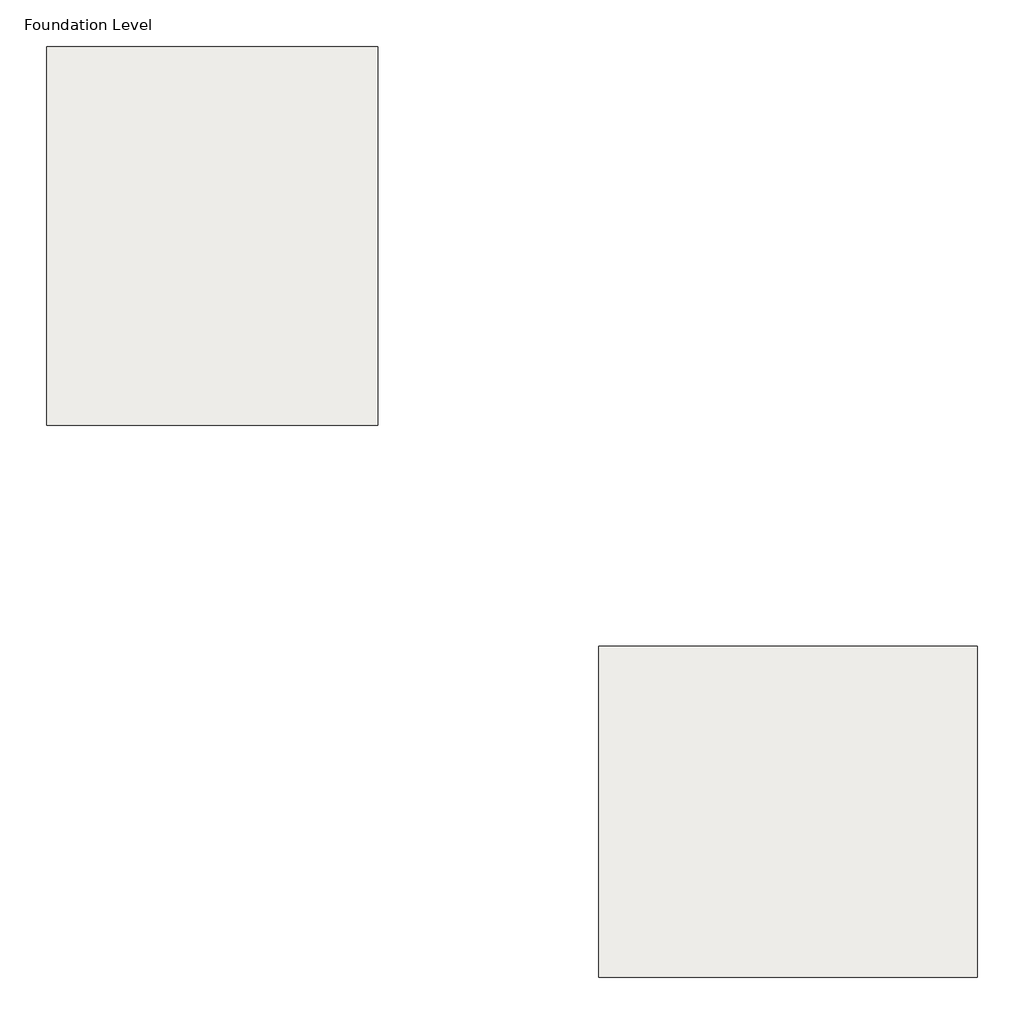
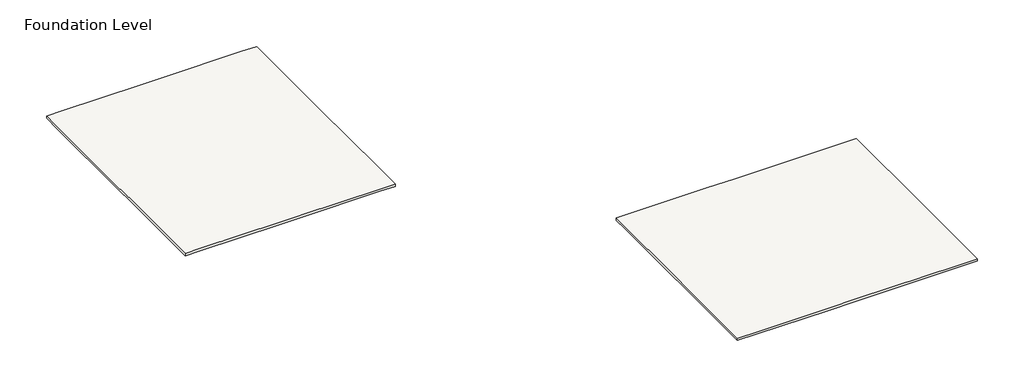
# One storey: 2 slabs.
"""IFC4 building model written with IfcOpenShell, lengths in millimetres."""

from ifc_helpers import new_model, si_unit, origin, place, context, project, spatial, faceted_brep, element, save

model = new_model("IFC4")

# Units and contexts
model_context = context("Model", 3, world=origin())
ifc_project = project(units=[si_unit("LENGTHUNIT", "METRE", prefix="MILLI")], contexts=[model_context])

# Site, building, storey
site = spatial("IfcSite", under=ifc_project)
building = spatial("IfcBuilding", under=site)
storey = spatial("IfcBuildingStorey", under=building, Name="Foundation Level", Elevation=-1828.8)

# Slabs
placement = place(None, origin())
element("IfcSlab", 1, ObjectType="150mm Foundation Slab", at=placement, inside=storey, context=model_context, shape_type="Brep", body=[
    faceted_brep([(-13641.0467956, 11548.6404637, -1978.8), (-13641.0467956, 10348.6404637, -1978.8), (-13641.0467956, 4223.6404637, -1978.8), (-13641.0467956, 2423.6404637, -1978.8), (-13641.0467956, -1872.3595363, -1978.8), (-13641.0467956, -3072.3595363, -1978.8), (-14541.0467956, -3072.3595363, -1978.8), (-19437.0467956, -3072.3595363, -1978.8), (-20637.0467956, -3072.3595363, -1978.8), (-25533.0467956, -3072.3595363, -1978.8), (-26433.0467956, -3072.3595363, -1978.8), (-26433.0467956, -1872.3595363, -1978.8), (-26433.0467956, 2423.6404637, -1978.8), (-26433.0467956, 4223.6404637, -1978.8), (-26433.0467956, 10348.6404637, -1978.8), (-26433.0467956, 11548.6404637, -1978.8), (-25533.0467956, 11548.6404637, -1978.8), (-20637.0467956, 11548.6404637, -1978.8), (-19437.0467956, 11548.6404637, -1978.8), (-14541.0467956, 11548.6404637, -1978.8), (-13641.0467956, 11548.6404637, -1828.8), (-14541.0467956, 11548.6404637, -1828.8), (-19437.0467956, 11548.6404637, -1828.8), (-20637.0467956, 11548.6404637, -1828.8), (-25533.0467956, 11548.6404637, -1828.8), (-26433.0467956, 11548.6404637, -1828.8), (-26433.0467956, 10348.6404637, -1828.8), (-26433.0467956, 4223.6404637, -1828.8), (-26433.0467956, 2423.6404637, -1828.8), (-26433.0467956, -1872.3595363, -1828.8), (-26433.0467956, -3072.3595363, -1828.8), (-25533.0467956, -3072.3595363, -1828.8), (-20637.0467956, -3072.3595363, -1828.8), (-19437.0467956, -3072.3595363, -1828.8), (-14541.0467956, -3072.3595363, -1828.8), (-13641.0467956, -3072.3595363, -1828.8), (-13641.0467956, -1872.3595363, -1828.8), (-13641.0467956, 2423.6404637, -1828.8), (-13641.0467956, 4223.6404637, -1828.8), (-13641.0467956, 10348.6404637, -1828.8)], [[[0, 1, 2, 3, 4, 5, 6, 7, 8, 9, 10, 11, 12, 13, 14, 15, 16, 17, 18, 19]], [[20, 21, 22, 23, 24, 25, 26, 27, 28, 29, 30, 31, 32, 33, 34, 35, 36, 37, 38, 39]], [[5, 4, 3, 2, 1, 0, 20, 39, 38, 37, 36, 35]], [[10, 9, 8, 7, 6, 5, 35, 34, 33, 32, 31, 30]], [[15, 14, 13, 12, 11, 10, 30, 29, 28, 27, 26, 25]], [[0, 19, 18, 17, 16, 15, 25, 24, 23, 22, 21, 20]]]),
])
element("IfcSlab", 2, ObjectType="150mm Foundation Slab", at=placement, inside=storey, context=model_context, shape_type="Brep", body=[
    faceted_brep([(9523.9532044, -11616.3595363, -1978.8), (9523.9532044, -12516.3595363, -1978.8), (9523.9532044, -17412.3595363, -1978.8), (9523.9532044, -18612.3595363, -1978.8), (9523.9532044, -23508.3595363, -1978.8), (9523.9532044, -24408.3595363, -1978.8), (8323.9532044, -24408.3595363, -1978.8), (2198.9532044, -24408.3595363, -1978.8), (398.9532044, -24408.3595363, -1978.8), (-3897.0467956, -24408.3595363, -1978.8), (-5097.0467956, -24408.3595363, -1978.8), (-5097.0467956, -23508.3595363, -1978.8), (-5097.0467956, -18612.3595363, -1978.8), (-5097.0467956, -17412.3595363, -1978.8), (-5097.0467956, -12516.3595363, -1978.8), (-5097.0467956, -11616.3595363, -1978.8), (-3897.0467956, -11616.3595363, -1978.8), (398.9532044, -11616.3595363, -1978.8), (2198.9532044, -11616.3595363, -1978.8), (8323.9532044, -11616.3595363, -1978.8), (9523.9532044, -11616.3595363, -1828.8), (8323.9532044, -11616.3595363, -1828.8), (2198.9532044, -11616.3595363, -1828.8), (398.9532044, -11616.3595363, -1828.8), (-3897.0467956, -11616.3595363, -1828.8), (-5097.0467956, -11616.3595363, -1828.8), (-5097.0467956, -12516.3595363, -1828.8), (-5097.0467956, -17412.3595363, -1828.8), (-5097.0467956, -18612.3595363, -1828.8), (-5097.0467956, -23508.3595363, -1828.8), (-5097.0467956, -24408.3595363, -1828.8), (-3897.0467956, -24408.3595363, -1828.8), (398.9532044, -24408.3595363, -1828.8), (2198.9532044, -24408.3595363, -1828.8), (8323.9532044, -24408.3595363, -1828.8), (9523.9532044, -24408.3595363, -1828.8), (9523.9532044, -23508.3595363, -1828.8), (9523.9532044, -18612.3595363, -1828.8), (9523.9532044, -17412.3595363, -1828.8), (9523.9532044, -12516.3595363, -1828.8)], [[[0, 1, 2, 3, 4, 5, 6, 7, 8, 9, 10, 11, 12, 13, 14, 15, 16, 17, 18, 19]], [[20, 21, 22, 23, 24, 25, 26, 27, 28, 29, 30, 31, 32, 33, 34, 35, 36, 37, 38, 39]], [[0, 19, 18, 17, 16, 15, 25, 24, 23, 22, 21, 20]], [[15, 14, 13, 12, 11, 10, 30, 29, 28, 27, 26, 25]], [[10, 9, 8, 7, 6, 5, 35, 34, 33, 32, 31, 30]], [[5, 4, 3, 2, 1, 0, 20, 39, 38, 37, 36, 35]]]),
])

save(model, "model.ifc")
